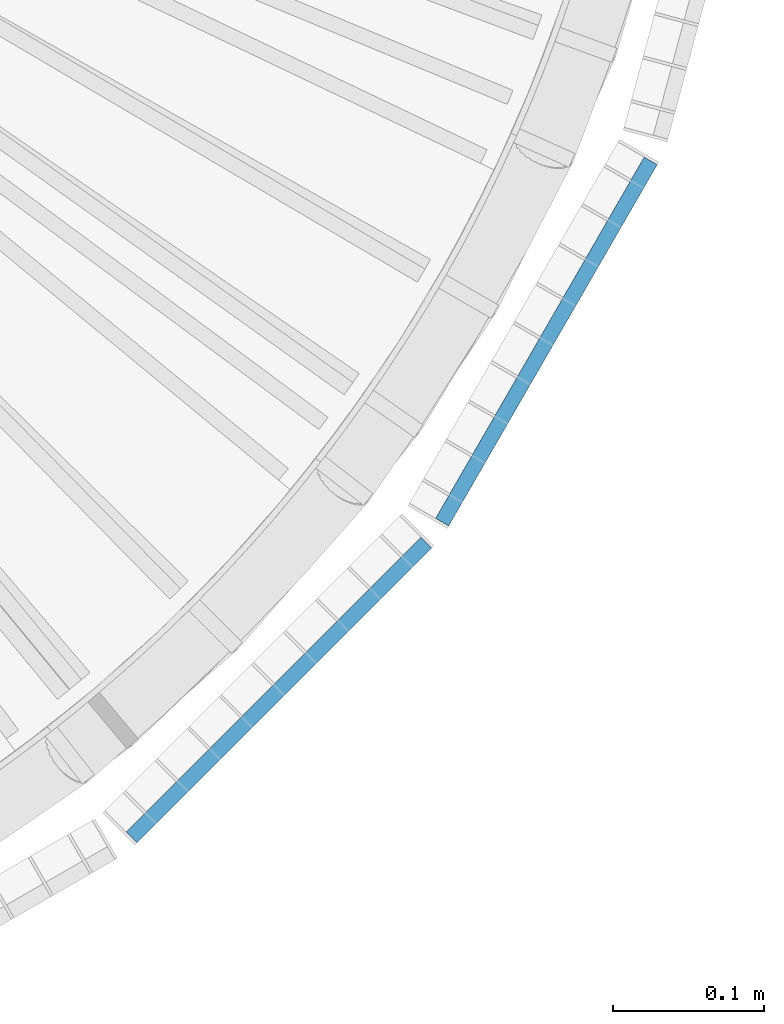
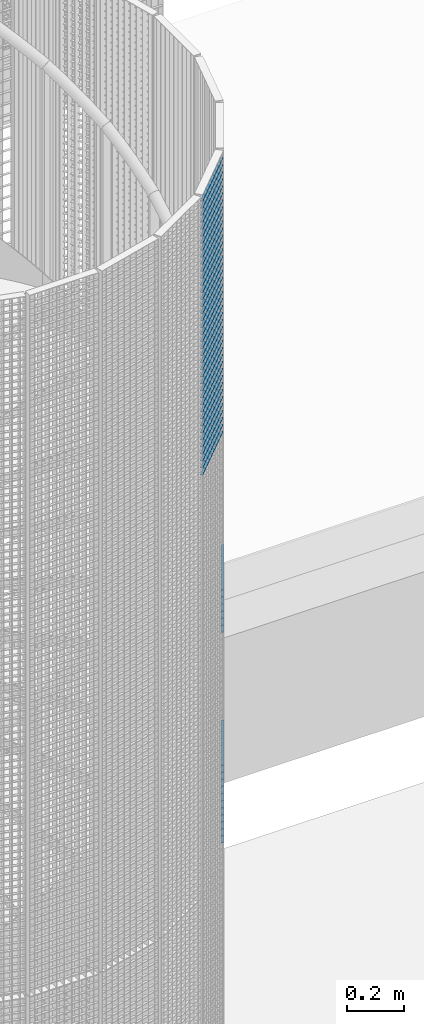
# One storey, part 233 of 1183: 59 beams, 2 elements without a shape of their own.
"""IFC2X3 building model written with IfcOpenShell, lengths in millimetres."""

import ifcopenshell
import ifcopenshell.guid

model = None  # the IFC model being written
_history = None  # IfcOwnerHistory: only IFC2X3 demands one
_inside = {}  # id of a spatial element -> (the spatial element, [elements in it])
_under = {}  # id of a project, library or spatial element -> (it, [spatial elements below it])
_declared = {}  # id of a project -> (the project, [libraries it declares])
_typed = {}  # id of a type object -> (the type object, [elements of that type])
_made_of = {}  # id of a material, layer set ... -> (it, [elements and type objects made of it])


def new_model(schema):
    """Start an empty IFC model of exactly this schema.

    Asked for "IFC4X3", IfcOpenShell would pick the latest addendum, in which some entities
    have other attributes; the version numbers below select the first issue.
    IFC2X3 requires an IfcOwnerHistory on every rooted entity: one is made here for all.
    """
    global model, _history
    if schema == "IFC4X3":
        model = ifcopenshell.file(schema_version=(4, 3, 0, 0))
    else:
        model = ifcopenshell.file(schema=schema)
    _inside.clear()
    _under.clear()
    _declared.clear()
    _typed.clear()
    _made_of.clear()
    _history = None
    if model.schema == "IFC2X3":
        org = make("IfcOrganization", Name="unknown")
        user = make(
            "IfcPersonAndOrganization",
            ThePerson=make("IfcPerson", FamilyName="unknown"),
            TheOrganization=org,
        )
        app = make(
            "IfcApplication",
            ApplicationDeveloper=org,
            Version="unknown",
            ApplicationFullName="unknown",
            ApplicationIdentifier="unknown",
        )
        _history = make(
            "IfcOwnerHistory",
            OwningUser=user,
            OwningApplication=app,
            ChangeAction="ADDED",
            CreationDate=0,
        )
    return model


def make(cls, **values):
    """One entity of the class cls with the attributes given. An attribute that is None is left unset."""
    return model.create_entity(
        cls, **{name: value for name, value in values.items() if value is not None}
    )


def rooted(cls, **values):
    """An entity with a GlobalId (a new one), such as an element, a storey or a relation."""
    return make(cls, GlobalId=ifcopenshell.guid.new(), OwnerHistory=_history, **values)


def si_unit(unit_type, name, prefix=None):
    """IfcSIUnit, for example si_unit("LENGTHUNIT", "METRE", prefix="MILLI")."""
    return make("IfcSIUnit", UnitType=unit_type, Prefix=prefix, Name=name)


def assignment(units):
    """IfcUnitAssignment: the units of a project."""
    return None if units is None else make("IfcUnitAssignment", Units=units)


def point(xyz):
    """IfcCartesianPoint."""
    return None if xyz is None else make("IfcCartesianPoint", Coordinates=xyz)


def direction(xyz):
    """IfcDirection."""
    return None if xyz is None else make("IfcDirection", DirectionRatios=xyz)


def frame(location, z_axis=None, x_axis=None):
    """IfcAxis2Placement3D, a coordinate frame: its origin and axes. An axis left out is left unset."""
    return make(
        "IfcAxis2Placement3D",
        Location=point(location),
        Axis=direction(z_axis),
        RefDirection=direction(x_axis),
    )


def frame_2d(location, x_axis=None):
    """IfcAxis2Placement2D, a coordinate frame in the plane: its origin and x axis."""
    return make(
        "IfcAxis2Placement2D", Location=point(location), RefDirection=direction(x_axis)
    )


def origin_with_axes():
    """The frame at (0, 0, 0) with the z axis (0, 0, 1) and the x axis (1, 0, 0) written out."""
    return frame((0.0, 0.0, 0.0), z_axis=(0.0, 0.0, 1.0), x_axis=(1.0, 0.0, 0.0))


def origin_2d_with_axis():
    """The frame at (0, 0) in the plane with the x axis (1, 0) written out."""
    return frame_2d((0.0, 0.0), x_axis=(1.0, 0.0))


def place(relative_to, where):
    """IfcLocalPlacement: puts the frame where relative to a parent placement (None: the world)."""
    return make(
        "IfcLocalPlacement", PlacementRelTo=relative_to, RelativePlacement=where
    )


def context(
    kind, dimensions, precision=None, world=None, true_north=None, identifier=None
):
    """IfcGeometricRepresentationContext, for example the 3D "Model" context."""
    return make(
        "IfcGeometricRepresentationContext",
        ContextIdentifier=identifier,
        ContextType=kind,
        CoordinateSpaceDimension=dimensions,
        Precision=precision,
        WorldCoordinateSystem=world,
        TrueNorth=true_north,
    )


def subcontext(parent, identifier, kind, view, scale=None):
    """IfcGeometricRepresentationSubContext, for example "Body" below "Model"."""
    return make(
        "IfcGeometricRepresentationSubContext",
        ContextIdentifier=identifier,
        ContextType=kind,
        ParentContext=parent,
        TargetScale=scale,
        TargetView=view,
    )


def project(units=None, contexts=None):
    """IfcProject with its units and contexts."""
    return rooted(
        "IfcProject",
        Name="project",
        RepresentationContexts=contexts,
        UnitsInContext=assignment(units),
    )


def spatial(cls, under=None, at=None, **own):
    """A site, building, storey or space (cls), placed at a placement, below another one or the project."""
    s = rooted(cls, ObjectPlacement=at, **own)
    if under is not None:
        _under.setdefault(under.id(), (under, []))[1].append(s)
    return s


def profile(cls, at=None, kind="AREA", **sizes):
    """A parametric profile (cls). Its sizes go by their IFC names, for example OverallWidth=200.0."""
    return make(cls, ProfileType=kind, Position=at, **sizes)


def rectangle(**sizes):
    """IfcRectangleProfileDef."""
    return profile("IfcRectangleProfileDef", **sizes)


def extrude(swept, where, along, depth):
    """IfcExtrudedAreaSolid: the profile swept, set in the frame where, extruded along a direction by depth."""
    return make(
        "IfcExtrudedAreaSolid",
        SweptArea=swept,
        Position=where,
        ExtrudedDirection=direction(along),
        Depth=depth,
    )


def shape(context_of_items, identifier, shape_type, items):
    """IfcShapeRepresentation: the items that make up one representation, for example the "Body"."""
    return make(
        "IfcShapeRepresentation",
        ContextOfItems=context_of_items,
        RepresentationIdentifier=identifier,
        RepresentationType=shape_type,
        Items=items,
    )


def material(Name=None, Category=None):
    """IfcMaterial."""
    return make("IfcMaterial", Name=Name, Category=Category)


def made_of(thing, what):
    """Note that an element or type object is made of a material, layer set ...; save() writes the relation."""
    if what is not None:
        _made_of.setdefault(what.id(), (what, []))[1].append(thing)
    return thing


def type_object(cls, material=None, **own):
    """A type object (cls), such as IfcWallType, which elements share."""
    return made_of(rooted(cls, **own), material)


def element(
    cls,
    number,
    at=None,
    inside=None,
    cuts=None,
    type_object=None,
    material=None,
    context=None,
    identifier="Body",
    shape_type=None,
    held_by="IfcProductDefinitionShape",
    body=None,
    shapes=None,
    **own,
):
    """One element of the class cls, such as IfcWall. Its Tag is "e" and its number.

    at: its placement. inside: the storey or other place that contains it. cuts: it is an
    opening in that element (IfcRelVoidsElement). A single representation is given by context,
    identifier, shape_type and body (its items); several are given by shapes. held_by: the class
    of the entity that holds the representations. save() writes the other relations.
    """
    e = rooted(cls, Tag="e%d" % number, ObjectPlacement=at, **own)
    if body is not None:
        shapes = [shape(context, identifier, shape_type, body)]
    if shapes is not None:
        e.Representation = make(held_by, Representations=shapes)
    if inside is not None:
        _inside.setdefault(inside.id(), (inside, []))[1].append(e)
    if cuts is not None:
        rooted(
            "IfcRelVoidsElement", RelatingBuildingElement=cuts, RelatedOpeningElement=e
        )
    if type_object is not None:
        _typed.setdefault(type_object.id(), (type_object, []))[1].append(e)
    return made_of(e, material)


def aggregate(whole, parts):
    """IfcRelAggregates: a whole, such as a stair, and the parts it consists of."""
    return rooted("IfcRelAggregates", RelatingObject=whole, RelatedObjects=parts)


def save(model, path):
    """Write the relations noted so far, then the file.

    IfcRelAggregates (storeys below a building ...), IfcRelContainedInSpatialStructure (elements
    in a storey), IfcRelDefinesByType, IfcRelAssociatesMaterial and IfcRelDeclares: one each for
    every whole, place, type object, material and project.
    """
    for whole, parts in _under.values():
        aggregate(whole, parts)
    for where, things in _inside.values():
        rooted(
            "IfcRelContainedInSpatialStructure",
            RelatedElements=things,
            RelatingStructure=where,
        )
    for kind, things in _typed.values():
        rooted("IfcRelDefinesByType", RelatedObjects=things, RelatingType=kind)
    for what, things in _made_of.values():
        rooted("IfcRelAssociatesMaterial", RelatedObjects=things, RelatingMaterial=what)
    for by, libraries in _declared.values():
        rooted("IfcRelDeclares", RelatingContext=by, RelatedDefinitions=libraries)
    model.write(path)


model = new_model("IFC2X3")

# Units and contexts
model_context = context("Model", 3, precision=1e-05, world=origin_with_axes())
body_context = subcontext(model_context, "Body", "Model", "MODEL_VIEW")
ifc_project = project(units=[si_unit("LENGTHUNIT", "METRE", prefix="MILLI"), si_unit("AREAUNIT", "SQUARE_METRE"), si_unit("VOLUMEUNIT", "CUBIC_METRE"), si_unit("MASSUNIT", "GRAM", prefix="KILO"), si_unit("TIMEUNIT", "SECOND"), si_unit("PLANEANGLEUNIT", "RADIAN"), si_unit("SOLIDANGLEUNIT", "STERADIAN"), si_unit("THERMODYNAMICTEMPERATUREUNIT", "DEGREE_CELSIUS"), si_unit("LUMINOUSINTENSITYUNIT", "LUMEN")], contexts=[model_context])

# Site, building, storey
site_placement = place(None, origin_with_axes())
site = spatial("IfcSite", under=ifc_project, at=site_placement, Name="Undefined", CompositionType="ELEMENT")
building_placement = place(site_placement, origin_with_axes())
building = spatial("IfcBuilding", under=site, at=building_placement, Name="Undefined", CompositionType="ELEMENT")
storey_placement = place(building_placement, origin_with_axes())
storey = spatial("IfcBuildingStorey", under=building, at=storey_placement, Name="Undefined", CompositionType="ELEMENT", Elevation=0.0)

# Assembly, beams
assembly_1_placement = place(storey_placement, origin_with_axes())
assembly_1 = element("IfcElementAssembly", 1, at=assembly_1_placement, inside=storey, Name="BORDURE", AssemblyPlace="NOTDEFINED", PredefinedType="NOTDEFINED")
ifc_material = material(Name="STEEL/S235JR")
beam_type = type_object("IfcBeamType", Name="PL2*10", PredefinedType="NOTDEFINED")
beam_1_placement = place(assembly_1_placement, frame((895.303964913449, -676.248044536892, 15930.0), z_axis=(0.866025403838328, -0.49999999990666, 0.0), x_axis=(0.49999999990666, 0.866025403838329, 0.0)))
beam_1 = element("IfcBeam", 2, at=beam_1_placement, type_object=beam_type, material=ifc_material, Name="ENTRETOISE", context=body_context, shape_type="SweptSolid", body=[
    extrude(rectangle(XDim=2.0, YDim=10.0, at=origin_2d_with_axis()), frame((275.999999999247, 9.09494701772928e-13, 1.53210777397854e-14), z_axis=(-1.0, 0.0, 0.0), x_axis=(0.0, -1.0, 0.0)), (0.0, 0.0, 1.0), 276.0),
])
beam_2_placement = place(assembly_1_placement, frame((895.30396491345, -676.24804453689, 15360.0), z_axis=(0.866025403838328, -0.49999999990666, 0.0), x_axis=(0.49999999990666, 0.866025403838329, 0.0)))
beam_2 = element("IfcBeam", 3, at=beam_2_placement, type_object=beam_type, material=ifc_material, Name="ENTRETOISE", context=body_context, shape_type="SweptSolid", body=[
    extrude(rectangle(XDim=2.0, YDim=10.0, at=origin_2d_with_axis()), frame((275.999999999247, 9.09494701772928e-13, 1.53210777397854e-14), z_axis=(-1.0, 0.0, 0.0), x_axis=(0.0, -1.0, 0.0)), (0.0, 0.0, 1.0), 276.0),
])
beam_3_placement = place(assembly_1_placement, frame((895.30396491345, -676.24804453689, 15330.0), z_axis=(0.866025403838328, -0.49999999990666, 0.0), x_axis=(0.49999999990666, 0.866025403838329, 0.0)))
beam_3 = element("IfcBeam", 4, at=beam_3_placement, type_object=beam_type, material=ifc_material, Name="ENTRETOISE", context=body_context, shape_type="SweptSolid", body=[
    extrude(rectangle(XDim=2.0, YDim=10.0, at=origin_2d_with_axis()), frame((275.999999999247, 9.09494701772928e-13, 1.53210777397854e-14), z_axis=(-1.0, 0.0, 0.0), x_axis=(0.0, -1.0, 0.0)), (0.0, 0.0, 1.0), 276.0),
])
beam_4_placement = place(assembly_1_placement, frame((895.303964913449, -676.248044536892, 15960.0), z_axis=(0.866025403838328, -0.49999999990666, 0.0), x_axis=(0.49999999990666, 0.866025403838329, 0.0)))
beam_4 = element("IfcBeam", 5, at=beam_4_placement, type_object=beam_type, material=ifc_material, Name="ENTRETOISE", context=body_context, shape_type="SweptSolid", body=[
    extrude(rectangle(XDim=2.0, YDim=10.0, at=origin_2d_with_axis()), frame((275.999999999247, 9.09494701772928e-13, 1.53210777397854e-14), z_axis=(-1.0, 0.0, 0.0), x_axis=(0.0, -1.0, 0.0)), (0.0, 0.0, 1.0), 276.0),
])
beam_5_placement = place(assembly_1_placement, frame((895.30396491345, -676.24804453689, 15300.0), z_axis=(0.866025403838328, -0.49999999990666, 0.0), x_axis=(0.49999999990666, 0.866025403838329, 0.0)))
beam_5 = element("IfcBeam", 6, at=beam_5_placement, type_object=beam_type, material=ifc_material, Name="ENTRETOISE", context=body_context, shape_type="SweptSolid", body=[
    extrude(rectangle(XDim=2.0, YDim=10.0, at=origin_2d_with_axis()), frame((275.999999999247, 9.09494701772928e-13, 1.53210777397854e-14), z_axis=(-1.0, 0.0, 0.0), x_axis=(0.0, -1.0, 0.0)), (0.0, 0.0, 1.0), 276.0),
])
beam_6_placement = place(assembly_1_placement, frame((895.30396491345, -676.24804453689, 15270.0), z_axis=(0.866025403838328, -0.49999999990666, 0.0), x_axis=(0.49999999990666, 0.866025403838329, 0.0)))
beam_6 = element("IfcBeam", 7, at=beam_6_placement, type_object=beam_type, material=ifc_material, Name="ENTRETOISE", context=body_context, shape_type="SweptSolid", body=[
    extrude(rectangle(XDim=2.0, YDim=10.0, at=origin_2d_with_axis()), frame((275.999999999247, 9.09494701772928e-13, 1.53210777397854e-14), z_axis=(-1.0, 0.0, 0.0), x_axis=(0.0, -1.0, 0.0)), (0.0, 0.0, 1.0), 276.0),
])
beam_7_placement = place(assembly_1_placement, frame((895.303964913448, -676.248044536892, 15990.0), z_axis=(0.866025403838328, -0.49999999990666, 0.0), x_axis=(0.49999999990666, 0.866025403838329, 0.0)))
beam_7 = element("IfcBeam", 8, at=beam_7_placement, type_object=beam_type, material=ifc_material, Name="ENTRETOISE", context=body_context, shape_type="SweptSolid", body=[
    extrude(rectangle(XDim=2.0, YDim=10.0, at=origin_2d_with_axis()), frame((275.999999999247, 9.09494701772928e-13, 1.53210777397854e-14), z_axis=(-1.0, 0.0, 0.0), x_axis=(0.0, -1.0, 0.0)), (0.0, 0.0, 1.0), 276.0),
])
beam_8_placement = place(assembly_1_placement, frame((895.30396491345, -676.24804453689, 15240.0), z_axis=(0.866025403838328, -0.49999999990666, 0.0), x_axis=(0.49999999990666, 0.866025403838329, 0.0)))
beam_8 = element("IfcBeam", 9, at=beam_8_placement, type_object=beam_type, material=ifc_material, Name="ENTRETOISE", context=body_context, shape_type="SweptSolid", body=[
    extrude(rectangle(XDim=2.0, YDim=10.0, at=origin_2d_with_axis()), frame((275.999999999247, 9.09494701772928e-13, 1.53210777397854e-14), z_axis=(-1.0, 0.0, 0.0), x_axis=(0.0, -1.0, 0.0)), (0.0, 0.0, 1.0), 276.0),
])
beam_9_placement = place(assembly_1_placement, frame((895.303964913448, -676.248044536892, 16020.0), z_axis=(0.866025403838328, -0.49999999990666, 0.0), x_axis=(0.49999999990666, 0.866025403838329, 0.0)))
beam_9 = element("IfcBeam", 10, at=beam_9_placement, type_object=beam_type, material=ifc_material, Name="ENTRETOISE", context=body_context, shape_type="SweptSolid", body=[
    extrude(rectangle(XDim=2.0, YDim=10.0, at=origin_2d_with_axis()), frame((275.999999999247, 9.09494701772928e-13, 1.53210777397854e-14), z_axis=(-1.0, 0.0, 0.0), x_axis=(0.0, -1.0, 0.0)), (0.0, 0.0, 1.0), 276.0),
])
beam_10_placement = place(assembly_1_placement, frame((895.30396491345, -676.24804453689, 15210.0), z_axis=(0.866025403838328, -0.49999999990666, 0.0), x_axis=(0.49999999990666, 0.866025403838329, 0.0)))
beam_10 = element("IfcBeam", 11, at=beam_10_placement, type_object=beam_type, material=ifc_material, Name="ENTRETOISE", context=body_context, shape_type="SweptSolid", body=[
    extrude(rectangle(XDim=2.0, YDim=10.0, at=origin_2d_with_axis()), frame((275.999999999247, 9.09494701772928e-13, 1.53210777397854e-14), z_axis=(-1.0, 0.0, 0.0), x_axis=(0.0, -1.0, 0.0)), (0.0, 0.0, 1.0), 276.0),
])
beam_11_placement = place(assembly_1_placement, frame((895.30396491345, -676.24804453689, 15180.0), z_axis=(0.866025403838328, -0.49999999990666, 0.0), x_axis=(0.49999999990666, 0.866025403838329, 0.0)))
beam_11 = element("IfcBeam", 12, at=beam_11_placement, type_object=beam_type, material=ifc_material, Name="ENTRETOISE", context=body_context, shape_type="SweptSolid", body=[
    extrude(rectangle(XDim=2.0, YDim=10.0, at=origin_2d_with_axis()), frame((275.999999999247, 9.09494701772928e-13, 1.53210777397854e-14), z_axis=(-1.0, 0.0, 0.0), x_axis=(0.0, -1.0, 0.0)), (0.0, 0.0, 1.0), 276.0),
])
beam_12_placement = place(assembly_1_placement, frame((895.303964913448, -676.248044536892, 16050.0), z_axis=(0.866025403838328, -0.49999999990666, 0.0), x_axis=(0.49999999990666, 0.866025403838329, 0.0)))
beam_12 = element("IfcBeam", 13, at=beam_12_placement, type_object=beam_type, material=ifc_material, Name="ENTRETOISE", context=body_context, shape_type="SweptSolid", body=[
    extrude(rectangle(XDim=2.0, YDim=10.0, at=origin_2d_with_axis()), frame((275.999999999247, 9.09494701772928e-13, 1.53210777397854e-14), z_axis=(-1.0, 0.0, 0.0), x_axis=(0.0, -1.0, 0.0)), (0.0, 0.0, 1.0), 276.0),
])
beam_13_placement = place(assembly_1_placement, frame((895.30396491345, -676.24804453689, 15150.0), z_axis=(0.866025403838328, -0.49999999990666, 0.0), x_axis=(0.49999999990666, 0.866025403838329, 0.0)))
beam_13 = element("IfcBeam", 14, at=beam_13_placement, type_object=beam_type, material=ifc_material, Name="ENTRETOISE", context=body_context, shape_type="SweptSolid", body=[
    extrude(rectangle(XDim=2.0, YDim=10.0, at=origin_2d_with_axis()), frame((275.999999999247, 9.09494701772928e-13, 1.53210777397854e-14), z_axis=(-1.0, 0.0, 0.0), x_axis=(0.0, -1.0, 0.0)), (0.0, 0.0, 1.0), 276.0),
])
beam_14_placement = place(assembly_1_placement, frame((895.30396491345, -676.24804453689, 15120.0), z_axis=(0.866025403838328, -0.49999999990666, 0.0), x_axis=(0.49999999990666, 0.866025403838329, 0.0)))
beam_14 = element("IfcBeam", 15, at=beam_14_placement, type_object=beam_type, material=ifc_material, Name="ENTRETOISE", context=body_context, shape_type="SweptSolid", body=[
    extrude(rectangle(XDim=2.0, YDim=10.0, at=origin_2d_with_axis()), frame((275.999999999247, 9.09494701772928e-13, 1.53210777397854e-14), z_axis=(-1.0, 0.0, 0.0), x_axis=(0.0, -1.0, 0.0)), (0.0, 0.0, 1.0), 276.0),
])
beam_15_placement = place(assembly_1_placement, frame((895.303964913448, -676.248044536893, 16080.0), z_axis=(0.866025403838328, -0.49999999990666, 0.0), x_axis=(0.49999999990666, 0.866025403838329, 0.0)))
beam_15 = element("IfcBeam", 16, at=beam_15_placement, type_object=beam_type, material=ifc_material, Name="ENTRETOISE", context=body_context, shape_type="SweptSolid", body=[
    extrude(rectangle(XDim=2.0, YDim=10.0, at=origin_2d_with_axis()), frame((275.999999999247, 9.09494701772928e-13, 1.53210777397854e-14), z_axis=(-1.0, 0.0, 0.0), x_axis=(0.0, -1.0, 0.0)), (0.0, 0.0, 1.0), 276.0),
])
beam_16_placement = place(assembly_1_placement, frame((895.30396491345, -676.248044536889, 15090.0), z_axis=(0.866025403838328, -0.49999999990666, 0.0), x_axis=(0.49999999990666, 0.866025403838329, 0.0)))
beam_16 = element("IfcBeam", 17, at=beam_16_placement, type_object=beam_type, material=ifc_material, Name="ENTRETOISE", context=body_context, shape_type="SweptSolid", body=[
    extrude(rectangle(XDim=2.0, YDim=10.0, at=origin_2d_with_axis()), frame((275.999999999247, 9.09494701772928e-13, 1.53210777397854e-14), z_axis=(-1.0, 0.0, 0.0), x_axis=(0.0, -1.0, 0.0)), (0.0, 0.0, 1.0), 276.0),
])
beam_17_placement = place(assembly_1_placement, frame((895.30396491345, -676.248044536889, 15060.0), z_axis=(0.866025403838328, -0.49999999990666, 0.0), x_axis=(0.49999999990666, 0.866025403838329, 0.0)))
beam_17 = element("IfcBeam", 18, at=beam_17_placement, type_object=beam_type, material=ifc_material, Name="ENTRETOISE", context=body_context, shape_type="SweptSolid", body=[
    extrude(rectangle(XDim=2.0, YDim=10.0, at=origin_2d_with_axis()), frame((275.999999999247, 9.09494701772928e-13, 1.53210777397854e-14), z_axis=(-1.0, 0.0, 0.0), x_axis=(0.0, -1.0, 0.0)), (0.0, 0.0, 1.0), 276.0),
])
beam_18_placement = place(assembly_1_placement, frame((895.303964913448, -676.248044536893, 16110.0), z_axis=(0.866025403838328, -0.49999999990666, 0.0), x_axis=(0.49999999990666, 0.866025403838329, 0.0)))
beam_18 = element("IfcBeam", 19, at=beam_18_placement, type_object=beam_type, material=ifc_material, Name="ENTRETOISE", context=body_context, shape_type="SweptSolid", body=[
    extrude(rectangle(XDim=2.0, YDim=10.0, at=origin_2d_with_axis()), frame((275.999999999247, 9.09494701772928e-13, 1.53210777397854e-14), z_axis=(-1.0, 0.0, 0.0), x_axis=(0.0, -1.0, 0.0)), (0.0, 0.0, 1.0), 276.0),
])
beam_19_placement = place(assembly_1_placement, frame((895.30396491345, -676.248044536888, 15030.0), z_axis=(0.866025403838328, -0.49999999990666, 0.0), x_axis=(0.49999999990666, 0.866025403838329, 0.0)))
beam_19 = element("IfcBeam", 20, at=beam_19_placement, type_object=beam_type, material=ifc_material, Name="ENTRETOISE", context=body_context, shape_type="SweptSolid", body=[
    extrude(rectangle(XDim=2.0, YDim=10.0, at=origin_2d_with_axis()), frame((275.999999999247, 9.09494701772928e-13, 1.53210777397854e-14), z_axis=(-1.0, 0.0, 0.0), x_axis=(0.0, -1.0, 0.0)), (0.0, 0.0, 1.0), 276.0),
])
aggregate(assembly_1, [beam_1, beam_2, beam_3, beam_4, beam_5, beam_6, beam_7, beam_8, beam_9, beam_10, beam_11, beam_12, beam_13, beam_14, beam_15, beam_16, beam_17, beam_18, beam_19])

assembly_2_placement = place(storey_placement, origin_with_axes())
assembly_2 = element("IfcElementAssembly", 21, at=assembly_2_placement, inside=storey, Name="BORDURE", AssemblyPlace="NOTDEFINED", PredefinedType="NOTDEFINED")
beam_20_placement = place(assembly_2_placement, frame((689.771348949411, -884.927168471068, 17970.0), z_axis=(0.707106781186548, -0.707106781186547, 0.0), x_axis=(0.707106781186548, 0.707106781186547, 0.0)))
beam_20 = element("IfcBeam", 22, at=beam_20_placement, type_object=beam_type, material=ifc_material, Name="ENTRETOISE", context=body_context, shape_type="SweptSolid", body=[
    extrude(rectangle(XDim=2.0, YDim=10.0, at=origin_2d_with_axis()), frame((275.999999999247, 9.09494701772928e-13, 1.53210777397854e-14), z_axis=(-1.0, 0.0, 0.0), x_axis=(0.0, -1.0, 0.0)), (0.0, 0.0, 1.0), 276.0),
])
beam_21_placement = place(assembly_2_placement, frame((689.771348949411, -884.927168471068, 17940.0), z_axis=(0.707106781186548, -0.707106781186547, 0.0), x_axis=(0.707106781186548, 0.707106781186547, 0.0)))
beam_21 = element("IfcBeam", 23, at=beam_21_placement, type_object=beam_type, material=ifc_material, Name="ENTRETOISE", context=body_context, shape_type="SweptSolid", body=[
    extrude(rectangle(XDim=2.0, YDim=10.0, at=origin_2d_with_axis()), frame((275.999999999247, 9.09494701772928e-13, 1.53210777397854e-14), z_axis=(-1.0, 0.0, 0.0), x_axis=(0.0, -1.0, 0.0)), (0.0, 0.0, 1.0), 276.0),
])
beam_22_placement = place(assembly_2_placement, frame((689.771348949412, -884.927168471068, 17910.0), z_axis=(0.707106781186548, -0.707106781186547, 0.0), x_axis=(0.707106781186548, 0.707106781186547, 0.0)))
beam_22 = element("IfcBeam", 24, at=beam_22_placement, type_object=beam_type, material=ifc_material, Name="ENTRETOISE", context=body_context, shape_type="SweptSolid", body=[
    extrude(rectangle(XDim=2.0, YDim=10.0, at=origin_2d_with_axis()), frame((275.999999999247, 9.09494701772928e-13, 1.53210777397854e-14), z_axis=(-1.0, 0.0, 0.0), x_axis=(0.0, -1.0, 0.0)), (0.0, 0.0, 1.0), 276.0),
])
beam_23_placement = place(assembly_2_placement, frame((689.771348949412, -884.927168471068, 17880.0), z_axis=(0.707106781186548, -0.707106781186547, 0.0), x_axis=(0.707106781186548, 0.707106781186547, 0.0)))
beam_23 = element("IfcBeam", 25, at=beam_23_placement, type_object=beam_type, material=ifc_material, Name="ENTRETOISE", context=body_context, shape_type="SweptSolid", body=[
    extrude(rectangle(XDim=2.0, YDim=10.0, at=origin_2d_with_axis()), frame((275.999999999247, 9.09494701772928e-13, 1.53210777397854e-14), z_axis=(-1.0, 0.0, 0.0), x_axis=(0.0, -1.0, 0.0)), (0.0, 0.0, 1.0), 276.0),
])
beam_24_placement = place(assembly_2_placement, frame((689.771348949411, -884.927168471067, 17850.0), z_axis=(0.707106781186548, -0.707106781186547, 0.0), x_axis=(0.707106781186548, 0.707106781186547, 0.0)))
beam_24 = element("IfcBeam", 26, at=beam_24_placement, type_object=beam_type, material=ifc_material, Name="ENTRETOISE", context=body_context, shape_type="SweptSolid", body=[
    extrude(rectangle(XDim=2.0, YDim=10.0, at=origin_2d_with_axis()), frame((275.999999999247, 9.09494701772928e-13, 1.53210777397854e-14), z_axis=(-1.0, 0.0, 0.0), x_axis=(0.0, -1.0, 0.0)), (0.0, 0.0, 1.0), 276.0),
])
beam_25_placement = place(assembly_2_placement, frame((689.771348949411, -884.927168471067, 17820.0), z_axis=(0.707106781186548, -0.707106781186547, 0.0), x_axis=(0.707106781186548, 0.707106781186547, 0.0)))
beam_25 = element("IfcBeam", 27, at=beam_25_placement, type_object=beam_type, material=ifc_material, Name="ENTRETOISE", context=body_context, shape_type="SweptSolid", body=[
    extrude(rectangle(XDim=2.0, YDim=10.0, at=origin_2d_with_axis()), frame((275.999999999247, 9.09494701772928e-13, 1.53210777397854e-14), z_axis=(-1.0, 0.0, 0.0), x_axis=(0.0, -1.0, 0.0)), (0.0, 0.0, 1.0), 276.0),
])
beam_26_placement = place(assembly_2_placement, frame((689.771348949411, -884.927168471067, 17790.0), z_axis=(0.707106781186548, -0.707106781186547, 0.0), x_axis=(0.707106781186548, 0.707106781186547, 0.0)))
beam_26 = element("IfcBeam", 28, at=beam_26_placement, type_object=beam_type, material=ifc_material, Name="ENTRETOISE", context=body_context, shape_type="SweptSolid", body=[
    extrude(rectangle(XDim=2.0, YDim=10.0, at=origin_2d_with_axis()), frame((275.999999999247, 9.09494701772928e-13, 1.53210777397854e-14), z_axis=(-1.0, 0.0, 0.0), x_axis=(0.0, -1.0, 0.0)), (0.0, 0.0, 1.0), 276.0),
])
beam_27_placement = place(assembly_2_placement, frame((689.771348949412, -884.927168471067, 17760.0), z_axis=(0.707106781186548, -0.707106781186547, 0.0), x_axis=(0.707106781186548, 0.707106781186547, 0.0)))
beam_27 = element("IfcBeam", 29, at=beam_27_placement, type_object=beam_type, material=ifc_material, Name="ENTRETOISE", context=body_context, shape_type="SweptSolid", body=[
    extrude(rectangle(XDim=2.0, YDim=10.0, at=origin_2d_with_axis()), frame((275.999999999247, 9.09494701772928e-13, 1.53210777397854e-14), z_axis=(-1.0, 0.0, 0.0), x_axis=(0.0, -1.0, 0.0)), (0.0, 0.0, 1.0), 276.0),
])
beam_28_placement = place(assembly_2_placement, frame((689.771348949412, -884.927168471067, 17730.0), z_axis=(0.707106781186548, -0.707106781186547, 0.0), x_axis=(0.707106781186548, 0.707106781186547, 0.0)))
beam_28 = element("IfcBeam", 30, at=beam_28_placement, type_object=beam_type, material=ifc_material, Name="ENTRETOISE", context=body_context, shape_type="SweptSolid", body=[
    extrude(rectangle(XDim=2.0, YDim=10.0, at=origin_2d_with_axis()), frame((275.999999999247, 9.09494701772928e-13, 1.53210777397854e-14), z_axis=(-1.0, 0.0, 0.0), x_axis=(0.0, -1.0, 0.0)), (0.0, 0.0, 1.0), 276.0),
])
beam_29_placement = place(assembly_2_placement, frame((689.771348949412, -884.927168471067, 17700.0), z_axis=(0.707106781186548, -0.707106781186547, 0.0), x_axis=(0.707106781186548, 0.707106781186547, 0.0)))
beam_29 = element("IfcBeam", 31, at=beam_29_placement, type_object=beam_type, material=ifc_material, Name="ENTRETOISE", context=body_context, shape_type="SweptSolid", body=[
    extrude(rectangle(XDim=2.0, YDim=10.0, at=origin_2d_with_axis()), frame((275.999999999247, 9.09494701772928e-13, 1.53210777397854e-14), z_axis=(-1.0, 0.0, 0.0), x_axis=(0.0, -1.0, 0.0)), (0.0, 0.0, 1.0), 276.0),
])
beam_30_placement = place(assembly_2_placement, frame((689.771348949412, -884.927168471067, 17670.0), z_axis=(0.707106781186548, -0.707106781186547, 0.0), x_axis=(0.707106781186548, 0.707106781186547, 0.0)))
beam_30 = element("IfcBeam", 32, at=beam_30_placement, type_object=beam_type, material=ifc_material, Name="ENTRETOISE", context=body_context, shape_type="SweptSolid", body=[
    extrude(rectangle(XDim=2.0, YDim=10.0, at=origin_2d_with_axis()), frame((275.999999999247, 9.09494701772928e-13, 1.53210777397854e-14), z_axis=(-1.0, 0.0, 0.0), x_axis=(0.0, -1.0, 0.0)), (0.0, 0.0, 1.0), 276.0),
])
beam_31_placement = place(assembly_2_placement, frame((689.771348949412, -884.927168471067, 17640.0), z_axis=(0.707106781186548, -0.707106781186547, 0.0), x_axis=(0.707106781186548, 0.707106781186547, 0.0)))
beam_31 = element("IfcBeam", 33, at=beam_31_placement, type_object=beam_type, material=ifc_material, Name="ENTRETOISE", context=body_context, shape_type="SweptSolid", body=[
    extrude(rectangle(XDim=2.0, YDim=10.0, at=origin_2d_with_axis()), frame((275.999999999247, 9.09494701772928e-13, 1.53210777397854e-14), z_axis=(-1.0, 0.0, 0.0), x_axis=(0.0, -1.0, 0.0)), (0.0, 0.0, 1.0), 276.0),
])
beam_32_placement = place(assembly_2_placement, frame((689.771348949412, -884.927168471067, 17610.0), z_axis=(0.707106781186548, -0.707106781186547, 0.0), x_axis=(0.707106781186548, 0.707106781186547, 0.0)))
beam_32 = element("IfcBeam", 34, at=beam_32_placement, type_object=beam_type, material=ifc_material, Name="ENTRETOISE", context=body_context, shape_type="SweptSolid", body=[
    extrude(rectangle(XDim=2.0, YDim=10.0, at=origin_2d_with_axis()), frame((275.999999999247, 9.09494701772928e-13, 1.53210777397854e-14), z_axis=(-1.0, 0.0, 0.0), x_axis=(0.0, -1.0, 0.0)), (0.0, 0.0, 1.0), 276.0),
])
beam_33_placement = place(assembly_2_placement, frame((689.771348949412, -884.927168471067, 17580.0), z_axis=(0.707106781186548, -0.707106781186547, 0.0), x_axis=(0.707106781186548, 0.707106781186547, 0.0)))
beam_33 = element("IfcBeam", 35, at=beam_33_placement, type_object=beam_type, material=ifc_material, Name="ENTRETOISE", context=body_context, shape_type="SweptSolid", body=[
    extrude(rectangle(XDim=2.0, YDim=10.0, at=origin_2d_with_axis()), frame((275.999999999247, 9.09494701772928e-13, 1.53210777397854e-14), z_axis=(-1.0, 0.0, 0.0), x_axis=(0.0, -1.0, 0.0)), (0.0, 0.0, 1.0), 276.0),
])
beam_34_placement = place(assembly_2_placement, frame((689.771348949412, -884.927168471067, 17550.0), z_axis=(0.707106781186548, -0.707106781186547, 0.0), x_axis=(0.707106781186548, 0.707106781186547, 0.0)))
beam_34 = element("IfcBeam", 36, at=beam_34_placement, type_object=beam_type, material=ifc_material, Name="ENTRETOISE", context=body_context, shape_type="SweptSolid", body=[
    extrude(rectangle(XDim=2.0, YDim=10.0, at=origin_2d_with_axis()), frame((275.999999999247, 9.09494701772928e-13, 1.53210777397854e-14), z_axis=(-1.0, 0.0, 0.0), x_axis=(0.0, -1.0, 0.0)), (0.0, 0.0, 1.0), 276.0),
])
beam_35_placement = place(assembly_2_placement, frame((689.771348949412, -884.927168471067, 17520.0), z_axis=(0.707106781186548, -0.707106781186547, 0.0), x_axis=(0.707106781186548, 0.707106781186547, 0.0)))
beam_35 = element("IfcBeam", 37, at=beam_35_placement, type_object=beam_type, material=ifc_material, Name="ENTRETOISE", context=body_context, shape_type="SweptSolid", body=[
    extrude(rectangle(XDim=2.0, YDim=10.0, at=origin_2d_with_axis()), frame((275.999999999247, 9.09494701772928e-13, 1.53210777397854e-14), z_axis=(-1.0, 0.0, 0.0), x_axis=(0.0, -1.0, 0.0)), (0.0, 0.0, 1.0), 276.0),
])
beam_36_placement = place(assembly_2_placement, frame((689.771348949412, -884.927168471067, 17490.0), z_axis=(0.707106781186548, -0.707106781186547, 0.0), x_axis=(0.707106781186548, 0.707106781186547, 0.0)))
beam_36 = element("IfcBeam", 38, at=beam_36_placement, type_object=beam_type, material=ifc_material, Name="ENTRETOISE", context=body_context, shape_type="SweptSolid", body=[
    extrude(rectangle(XDim=2.0, YDim=10.0, at=origin_2d_with_axis()), frame((275.999999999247, 9.09494701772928e-13, 1.53210777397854e-14), z_axis=(-1.0, 0.0, 0.0), x_axis=(0.0, -1.0, 0.0)), (0.0, 0.0, 1.0), 276.0),
])
beam_37_placement = place(assembly_2_placement, frame((689.771348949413, -884.927168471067, 17460.0), z_axis=(0.707106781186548, -0.707106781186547, 0.0), x_axis=(0.707106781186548, 0.707106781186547, 0.0)))
beam_37 = element("IfcBeam", 39, at=beam_37_placement, type_object=beam_type, material=ifc_material, Name="ENTRETOISE", context=body_context, shape_type="SweptSolid", body=[
    extrude(rectangle(XDim=2.0, YDim=10.0, at=origin_2d_with_axis()), frame((275.999999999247, 9.09494701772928e-13, 1.53210777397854e-14), z_axis=(-1.0, 0.0, 0.0), x_axis=(0.0, -1.0, 0.0)), (0.0, 0.0, 1.0), 276.0),
])
beam_38_placement = place(assembly_2_placement, frame((689.771348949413, -884.927168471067, 17430.0), z_axis=(0.707106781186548, -0.707106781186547, 0.0), x_axis=(0.707106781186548, 0.707106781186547, 0.0)))
beam_38 = element("IfcBeam", 40, at=beam_38_placement, type_object=beam_type, material=ifc_material, Name="ENTRETOISE", context=body_context, shape_type="SweptSolid", body=[
    extrude(rectangle(XDim=2.0, YDim=10.0, at=origin_2d_with_axis()), frame((275.999999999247, 9.09494701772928e-13, 1.53210777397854e-14), z_axis=(-1.0, 0.0, 0.0), x_axis=(0.0, -1.0, 0.0)), (0.0, 0.0, 1.0), 276.0),
])
beam_39_placement = place(assembly_2_placement, frame((689.771348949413, -884.927168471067, 17400.0), z_axis=(0.707106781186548, -0.707106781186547, 0.0), x_axis=(0.707106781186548, 0.707106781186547, 0.0)))
beam_39 = element("IfcBeam", 41, at=beam_39_placement, type_object=beam_type, material=ifc_material, Name="ENTRETOISE", context=body_context, shape_type="SweptSolid", body=[
    extrude(rectangle(XDim=2.0, YDim=10.0, at=origin_2d_with_axis()), frame((275.999999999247, 9.09494701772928e-13, 1.53210777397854e-14), z_axis=(-1.0, 0.0, 0.0), x_axis=(0.0, -1.0, 0.0)), (0.0, 0.0, 1.0), 276.0),
])
beam_40_placement = place(assembly_2_placement, frame((689.771348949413, -884.927168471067, 17370.0), z_axis=(0.707106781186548, -0.707106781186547, 0.0), x_axis=(0.707106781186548, 0.707106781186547, 0.0)))
beam_40 = element("IfcBeam", 42, at=beam_40_placement, type_object=beam_type, material=ifc_material, Name="ENTRETOISE", context=body_context, shape_type="SweptSolid", body=[
    extrude(rectangle(XDim=2.0, YDim=10.0, at=origin_2d_with_axis()), frame((275.999999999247, 9.09494701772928e-13, 1.53210777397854e-14), z_axis=(-1.0, 0.0, 0.0), x_axis=(0.0, -1.0, 0.0)), (0.0, 0.0, 1.0), 276.0),
])
beam_41_placement = place(assembly_2_placement, frame((689.771348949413, -884.927168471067, 17340.0), z_axis=(0.707106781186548, -0.707106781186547, 0.0), x_axis=(0.707106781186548, 0.707106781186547, 0.0)))
beam_41 = element("IfcBeam", 43, at=beam_41_placement, type_object=beam_type, material=ifc_material, Name="ENTRETOISE", context=body_context, shape_type="SweptSolid", body=[
    extrude(rectangle(XDim=2.0, YDim=10.0, at=origin_2d_with_axis()), frame((275.999999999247, 9.09494701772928e-13, 1.53210777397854e-14), z_axis=(-1.0, 0.0, 0.0), x_axis=(0.0, -1.0, 0.0)), (0.0, 0.0, 1.0), 276.0),
])
beam_42_placement = place(assembly_2_placement, frame((689.771348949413, -884.927168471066, 17310.0), z_axis=(0.707106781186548, -0.707106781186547, 0.0), x_axis=(0.707106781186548, 0.707106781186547, 0.0)))
beam_42 = element("IfcBeam", 44, at=beam_42_placement, type_object=beam_type, material=ifc_material, Name="ENTRETOISE", context=body_context, shape_type="SweptSolid", body=[
    extrude(rectangle(XDim=2.0, YDim=10.0, at=origin_2d_with_axis()), frame((275.999999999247, 9.09494701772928e-13, 1.53210777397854e-14), z_axis=(-1.0, 0.0, 0.0), x_axis=(0.0, -1.0, 0.0)), (0.0, 0.0, 1.0), 276.0),
])
beam_43_placement = place(assembly_2_placement, frame((689.771348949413, -884.927168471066, 17280.0), z_axis=(0.707106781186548, -0.707106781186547, 0.0), x_axis=(0.707106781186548, 0.707106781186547, 0.0)))
beam_43 = element("IfcBeam", 45, at=beam_43_placement, type_object=beam_type, material=ifc_material, Name="ENTRETOISE", context=body_context, shape_type="SweptSolid", body=[
    extrude(rectangle(XDim=2.0, YDim=10.0, at=origin_2d_with_axis()), frame((275.999999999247, 9.09494701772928e-13, 1.53210777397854e-14), z_axis=(-1.0, 0.0, 0.0), x_axis=(0.0, -1.0, 0.0)), (0.0, 0.0, 1.0), 276.0),
])
beam_44_placement = place(assembly_2_placement, frame((689.771348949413, -884.927168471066, 17250.0), z_axis=(0.707106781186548, -0.707106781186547, 0.0), x_axis=(0.707106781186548, 0.707106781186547, 0.0)))
beam_44 = element("IfcBeam", 46, at=beam_44_placement, type_object=beam_type, material=ifc_material, Name="ENTRETOISE", context=body_context, shape_type="SweptSolid", body=[
    extrude(rectangle(XDim=2.0, YDim=10.0, at=origin_2d_with_axis()), frame((275.999999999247, 9.09494701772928e-13, 1.53210777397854e-14), z_axis=(-1.0, 0.0, 0.0), x_axis=(0.0, -1.0, 0.0)), (0.0, 0.0, 1.0), 276.0),
])
beam_45_placement = place(assembly_2_placement, frame((689.771348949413, -884.927168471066, 17220.0), z_axis=(0.707106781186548, -0.707106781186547, 0.0), x_axis=(0.707106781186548, 0.707106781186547, 0.0)))
beam_45 = element("IfcBeam", 47, at=beam_45_placement, type_object=beam_type, material=ifc_material, Name="ENTRETOISE", context=body_context, shape_type="SweptSolid", body=[
    extrude(rectangle(XDim=2.0, YDim=10.0, at=origin_2d_with_axis()), frame((275.999999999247, 9.09494701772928e-13, 1.53210777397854e-14), z_axis=(-1.0, 0.0, 0.0), x_axis=(0.0, -1.0, 0.0)), (0.0, 0.0, 1.0), 276.0),
])
beam_46_placement = place(assembly_2_placement, frame((689.771348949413, -884.927168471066, 17190.0), z_axis=(0.707106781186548, -0.707106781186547, 0.0), x_axis=(0.707106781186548, 0.707106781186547, 0.0)))
beam_46 = element("IfcBeam", 48, at=beam_46_placement, type_object=beam_type, material=ifc_material, Name="ENTRETOISE", context=body_context, shape_type="SweptSolid", body=[
    extrude(rectangle(XDim=2.0, YDim=10.0, at=origin_2d_with_axis()), frame((275.999999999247, 9.09494701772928e-13, 1.53210777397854e-14), z_axis=(-1.0, 0.0, 0.0), x_axis=(0.0, -1.0, 0.0)), (0.0, 0.0, 1.0), 276.0),
])
beam_47_placement = place(assembly_2_placement, frame((689.771348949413, -884.927168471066, 17160.0), z_axis=(0.707106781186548, -0.707106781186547, 0.0), x_axis=(0.707106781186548, 0.707106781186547, 0.0)))
beam_47 = element("IfcBeam", 49, at=beam_47_placement, type_object=beam_type, material=ifc_material, Name="ENTRETOISE", context=body_context, shape_type="SweptSolid", body=[
    extrude(rectangle(XDim=2.0, YDim=10.0, at=origin_2d_with_axis()), frame((275.999999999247, 9.09494701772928e-13, 1.53210777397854e-14), z_axis=(-1.0, 0.0, 0.0), x_axis=(0.0, -1.0, 0.0)), (0.0, 0.0, 1.0), 276.0),
])
beam_48_placement = place(assembly_2_placement, frame((689.771348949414, -884.927168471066, 17130.0), z_axis=(0.707106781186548, -0.707106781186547, 0.0), x_axis=(0.707106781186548, 0.707106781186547, 0.0)))
beam_48 = element("IfcBeam", 50, at=beam_48_placement, type_object=beam_type, material=ifc_material, Name="ENTRETOISE", context=body_context, shape_type="SweptSolid", body=[
    extrude(rectangle(XDim=2.0, YDim=10.0, at=origin_2d_with_axis()), frame((275.999999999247, 9.09494701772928e-13, 1.53210777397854e-14), z_axis=(-1.0, 0.0, 0.0), x_axis=(0.0, -1.0, 0.0)), (0.0, 0.0, 1.0), 276.0),
])
beam_49_placement = place(assembly_2_placement, frame((689.771348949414, -884.927168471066, 17100.0), z_axis=(0.707106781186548, -0.707106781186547, 0.0), x_axis=(0.707106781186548, 0.707106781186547, 0.0)))
beam_49 = element("IfcBeam", 51, at=beam_49_placement, type_object=beam_type, material=ifc_material, Name="ENTRETOISE", context=body_context, shape_type="SweptSolid", body=[
    extrude(rectangle(XDim=2.0, YDim=10.0, at=origin_2d_with_axis()), frame((275.999999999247, 9.09494701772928e-13, 1.53210777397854e-14), z_axis=(-1.0, 0.0, 0.0), x_axis=(0.0, -1.0, 0.0)), (0.0, 0.0, 1.0), 276.0),
])
beam_50_placement = place(assembly_2_placement, frame((689.771348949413, -884.927168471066, 17070.0), z_axis=(0.707106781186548, -0.707106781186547, 0.0), x_axis=(0.707106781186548, 0.707106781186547, 0.0)))
beam_50 = element("IfcBeam", 52, at=beam_50_placement, type_object=beam_type, material=ifc_material, Name="ENTRETOISE", context=body_context, shape_type="SweptSolid", body=[
    extrude(rectangle(XDim=2.0, YDim=10.0, at=origin_2d_with_axis()), frame((275.999999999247, 9.09494701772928e-13, 1.53210777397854e-14), z_axis=(-1.0, 0.0, 0.0), x_axis=(0.0, -1.0, 0.0)), (0.0, 0.0, 1.0), 276.0),
])
beam_51_placement = place(assembly_2_placement, frame((689.771348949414, -884.927168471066, 17040.0), z_axis=(0.707106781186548, -0.707106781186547, 0.0), x_axis=(0.707106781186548, 0.707106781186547, 0.0)))
beam_51 = element("IfcBeam", 53, at=beam_51_placement, type_object=beam_type, material=ifc_material, Name="ENTRETOISE", context=body_context, shape_type="SweptSolid", body=[
    extrude(rectangle(XDim=2.0, YDim=10.0, at=origin_2d_with_axis()), frame((275.999999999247, 9.09494701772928e-13, 1.53210777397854e-14), z_axis=(-1.0, 0.0, 0.0), x_axis=(0.0, -1.0, 0.0)), (0.0, 0.0, 1.0), 276.0),
])
beam_52_placement = place(assembly_2_placement, frame((689.771348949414, -884.927168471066, 17010.0), z_axis=(0.707106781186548, -0.707106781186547, 0.0), x_axis=(0.707106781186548, 0.707106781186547, 0.0)))
beam_52 = element("IfcBeam", 54, at=beam_52_placement, type_object=beam_type, material=ifc_material, Name="ENTRETOISE", context=body_context, shape_type="SweptSolid", body=[
    extrude(rectangle(XDim=2.0, YDim=10.0, at=origin_2d_with_axis()), frame((275.999999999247, 9.09494701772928e-13, 1.53210777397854e-14), z_axis=(-1.0, 0.0, 0.0), x_axis=(0.0, -1.0, 0.0)), (0.0, 0.0, 1.0), 276.0),
])
beam_53_placement = place(assembly_2_placement, frame((689.771348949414, -884.927168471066, 16980.0), z_axis=(0.707106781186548, -0.707106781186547, 0.0), x_axis=(0.707106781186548, 0.707106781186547, 0.0)))
beam_53 = element("IfcBeam", 55, at=beam_53_placement, type_object=beam_type, material=ifc_material, Name="ENTRETOISE", context=body_context, shape_type="SweptSolid", body=[
    extrude(rectangle(XDim=2.0, YDim=10.0, at=origin_2d_with_axis()), frame((275.999999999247, 9.09494701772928e-13, 1.53210777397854e-14), z_axis=(-1.0, 0.0, 0.0), x_axis=(0.0, -1.0, 0.0)), (0.0, 0.0, 1.0), 276.0),
])
beam_54_placement = place(assembly_2_placement, frame((689.771348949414, -884.927168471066, 16950.0), z_axis=(0.707106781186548, -0.707106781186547, 0.0), x_axis=(0.707106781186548, 0.707106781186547, 0.0)))
beam_54 = element("IfcBeam", 56, at=beam_54_placement, type_object=beam_type, material=ifc_material, Name="ENTRETOISE", context=body_context, shape_type="SweptSolid", body=[
    extrude(rectangle(XDim=2.0, YDim=10.0, at=origin_2d_with_axis()), frame((275.999999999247, 9.09494701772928e-13, 1.53210777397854e-14), z_axis=(-1.0, 0.0, 0.0), x_axis=(0.0, -1.0, 0.0)), (0.0, 0.0, 1.0), 276.0),
])
beam_55_placement = place(assembly_2_placement, frame((689.771348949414, -884.927168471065, 16920.0), z_axis=(0.707106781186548, -0.707106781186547, 0.0), x_axis=(0.707106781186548, 0.707106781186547, 0.0)))
beam_55 = element("IfcBeam", 57, at=beam_55_placement, type_object=beam_type, material=ifc_material, Name="ENTRETOISE", context=body_context, shape_type="SweptSolid", body=[
    extrude(rectangle(XDim=2.0, YDim=10.0, at=origin_2d_with_axis()), frame((275.999999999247, 9.09494701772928e-13, 1.53210777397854e-14), z_axis=(-1.0, 0.0, 0.0), x_axis=(0.0, -1.0, 0.0)), (0.0, 0.0, 1.0), 276.0),
])
beam_56_placement = place(assembly_2_placement, frame((689.771348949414, -884.927168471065, 16890.0), z_axis=(0.707106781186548, -0.707106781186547, 0.0), x_axis=(0.707106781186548, 0.707106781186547, 0.0)))
beam_56 = element("IfcBeam", 58, at=beam_56_placement, type_object=beam_type, material=ifc_material, Name="ENTRETOISE", context=body_context, shape_type="SweptSolid", body=[
    extrude(rectangle(XDim=2.0, YDim=10.0, at=origin_2d_with_axis()), frame((275.999999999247, 9.09494701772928e-13, 1.53210777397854e-14), z_axis=(-1.0, 0.0, 0.0), x_axis=(0.0, -1.0, 0.0)), (0.0, 0.0, 1.0), 276.0),
])
beam_57_placement = place(assembly_2_placement, frame((689.771348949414, -884.927168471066, 16860.0), z_axis=(0.707106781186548, -0.707106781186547, 0.0), x_axis=(0.707106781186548, 0.707106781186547, 0.0)))
beam_57 = element("IfcBeam", 59, at=beam_57_placement, type_object=beam_type, material=ifc_material, Name="ENTRETOISE", context=body_context, shape_type="SweptSolid", body=[
    extrude(rectangle(XDim=2.0, YDim=10.0, at=origin_2d_with_axis()), frame((275.999999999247, 9.09494701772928e-13, 1.53210777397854e-14), z_axis=(-1.0, 0.0, 0.0), x_axis=(0.0, -1.0, 0.0)), (0.0, 0.0, 1.0), 276.0),
])
beam_58_placement = place(assembly_2_placement, frame((689.771348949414, -884.927168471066, 16830.0), z_axis=(0.707106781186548, -0.707106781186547, 0.0), x_axis=(0.707106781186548, 0.707106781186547, 0.0)))
beam_58 = element("IfcBeam", 60, at=beam_58_placement, type_object=beam_type, material=ifc_material, Name="ENTRETOISE", context=body_context, shape_type="SweptSolid", body=[
    extrude(rectangle(XDim=2.0, YDim=10.0, at=origin_2d_with_axis()), frame((275.999999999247, 9.09494701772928e-13, 1.53210777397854e-14), z_axis=(-1.0, 0.0, 0.0), x_axis=(0.0, -1.0, 0.0)), (0.0, 0.0, 1.0), 276.0),
])
beam_59_placement = place(assembly_2_placement, frame((689.771348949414, -884.927168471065, 16800.0), z_axis=(0.707106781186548, -0.707106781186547, 0.0), x_axis=(0.707106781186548, 0.707106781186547, 0.0)))
beam_59 = element("IfcBeam", 61, at=beam_59_placement, type_object=beam_type, material=ifc_material, Name="ENTRETOISE", context=body_context, shape_type="SweptSolid", body=[
    extrude(rectangle(XDim=2.0, YDim=10.0, at=origin_2d_with_axis()), frame((275.999999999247, 9.09494701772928e-13, 1.53210777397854e-14), z_axis=(-1.0, 0.0, 0.0), x_axis=(0.0, -1.0, 0.0)), (0.0, 0.0, 1.0), 276.0),
])
aggregate(assembly_2, [beam_20, beam_21, beam_22, beam_23, beam_24, beam_25, beam_26, beam_27, beam_28, beam_29, beam_30, beam_31, beam_32, beam_33, beam_34, beam_35, beam_36, beam_37, beam_38, beam_39, beam_40, beam_41, beam_42, beam_43, beam_44, beam_45, beam_46, beam_47, beam_48, beam_49, beam_50, beam_51, beam_52, beam_53, beam_54, beam_55, beam_56, beam_57, beam_58, beam_59])

save(model, "model.ifc")
